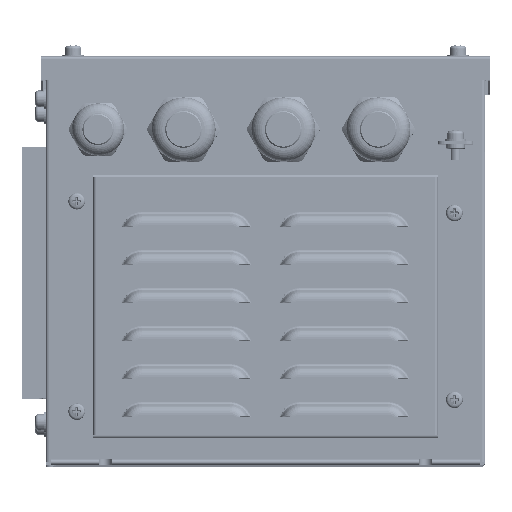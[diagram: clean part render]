
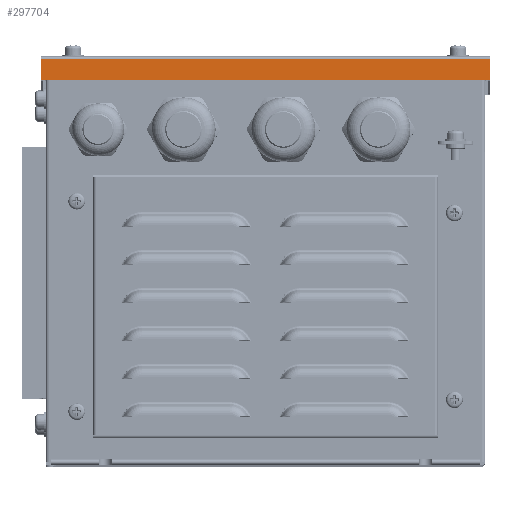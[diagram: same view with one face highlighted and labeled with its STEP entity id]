
A CAD part, top view. The second image highlights one B-rep face of the part: STEP entity #297704.
In plain terms, the highlighted planar face has unit normal (0, 0, 1).
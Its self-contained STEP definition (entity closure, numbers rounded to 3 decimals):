
#45652=FACE_OUTER_BOUND('',#63004,.T.);
#63004=EDGE_LOOP('',(#267340,#267341,#267342,#267343));
#91359=LINE('',#569489,#120082);
#91362=LINE('',#569494,#120085);
#91363=LINE('',#569496,#120086);
#91364=LINE('',#569497,#120087);
#120082=VECTOR('',#390769,8.8);
#120085=VECTOR('',#390774,189.);
#120086=VECTOR('',#390775,8.8);
#120087=VECTOR('',#390776,189.);
#146594=VERTEX_POINT('',#569487);
#146595=VERTEX_POINT('',#569488);
#146596=VERTEX_POINT('',#569493);
#146597=VERTEX_POINT('',#569495);
#187084=EDGE_CURVE('',#146594,#146595,#91359,.T.);
#187087=EDGE_CURVE('',#146595,#146596,#91362,.T.);
#187088=EDGE_CURVE('',#146596,#146597,#91363,.T.);
#187089=EDGE_CURVE('',#146597,#146594,#91364,.T.);
#267340=ORIENTED_EDGE('',*,*,#187084,.T.);
#267341=ORIENTED_EDGE('',*,*,#187087,.T.);
#267342=ORIENTED_EDGE('',*,*,#187088,.T.);
#267343=ORIENTED_EDGE('',*,*,#187089,.T.);
#282304=PLANE('',#321108);
#297704=ADVANCED_FACE('',(#45652),#282304,.T.);
#321108=AXIS2_PLACEMENT_3D('',#569492,#390772,#390773);
#390769=DIRECTION('',(0.,-1.,0.));
#390772=DIRECTION('center_axis',(0.,0.,1.));
#390773=DIRECTION('ref_axis',(-1.,0.,0.));
#390774=DIRECTION('',(1.,0.,0.));
#390775=DIRECTION('',(0.,1.,0.));
#390776=DIRECTION('',(-1.,0.,0.));
#569487=CARTESIAN_POINT('',(-109.,154.6,183.));
#569488=CARTESIAN_POINT('',(-109.,145.8,183.));
#569489=CARTESIAN_POINT('',(-109.,154.6,183.));
#569492=CARTESIAN_POINT('Origin',(-109.,155.8,183.));
#569493=CARTESIAN_POINT('',(80.,145.8,183.));
#569494=CARTESIAN_POINT('',(-109.,145.8,183.));
#569495=CARTESIAN_POINT('',(80.,154.6,183.));
#569496=CARTESIAN_POINT('',(80.,145.8,183.));
#569497=CARTESIAN_POINT('',(80.,154.6,183.));
